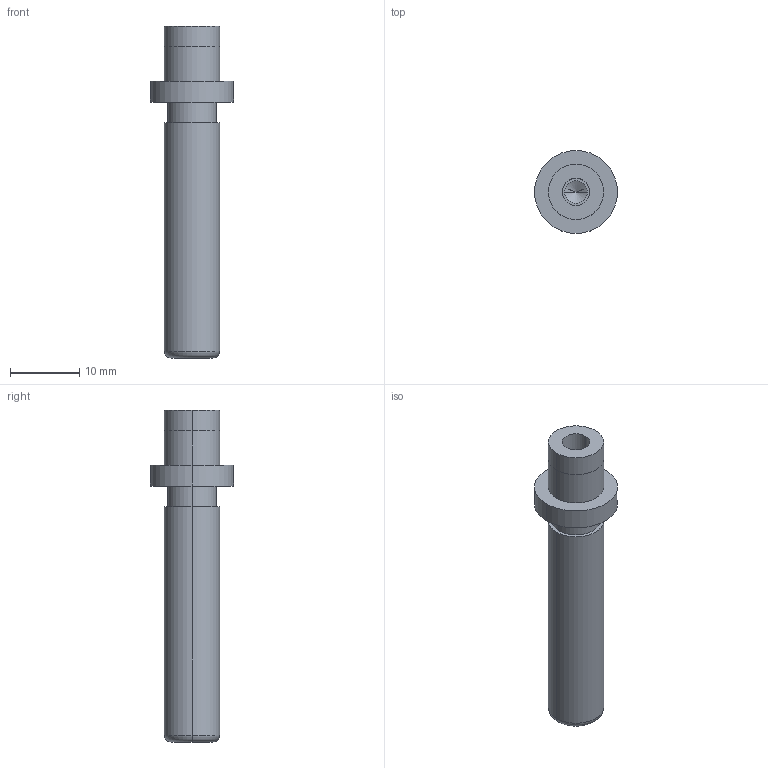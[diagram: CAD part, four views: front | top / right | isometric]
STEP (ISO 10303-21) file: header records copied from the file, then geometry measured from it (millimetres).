
FILE_DESCRIPTION(/* description */ (''),/* implementation_level */ '2;1');
FILE_NAME(/* name */ '3d_sgpw8-40_05247_r00.stp',/* time_stamp */ '2011-01-10T14:11:02+09:00',/* author */ ('MISUMI'),/* organization */ (''),/* preprocessor_version */ 'ST-DEVELOPER v11',/* originating_system */ 'UGS - NX 5.0',/* authorisation */ '');
FILE_SCHEMA (('CONFIG_CONTROL_DESIGN'));
Length unit declared in the file: millimetre
Products named in the file (1): 3d_sgpw8-40_05247_r00
Bounding box: 12 x 12 x 48 mm (x, y, z)
Volume: 2269.8 mm3; surface area: 1768.6 mm2
Topology: 1 solids, 1 shells, 31 faces, 64 edges, 38 vertices
Faces by surface type: cylinder 18, plane 7, cone 4, torus 2
Entity records: 890 total; most frequent: DIRECTION 162, CARTESIAN_POINT 130, ORIENTED_EDGE 120, AXIS2_PLACEMENT_3D 70, EDGE_CURVE 60, EDGE_LOOP 38, CIRCLE 38, VERTEX_POINT 38
